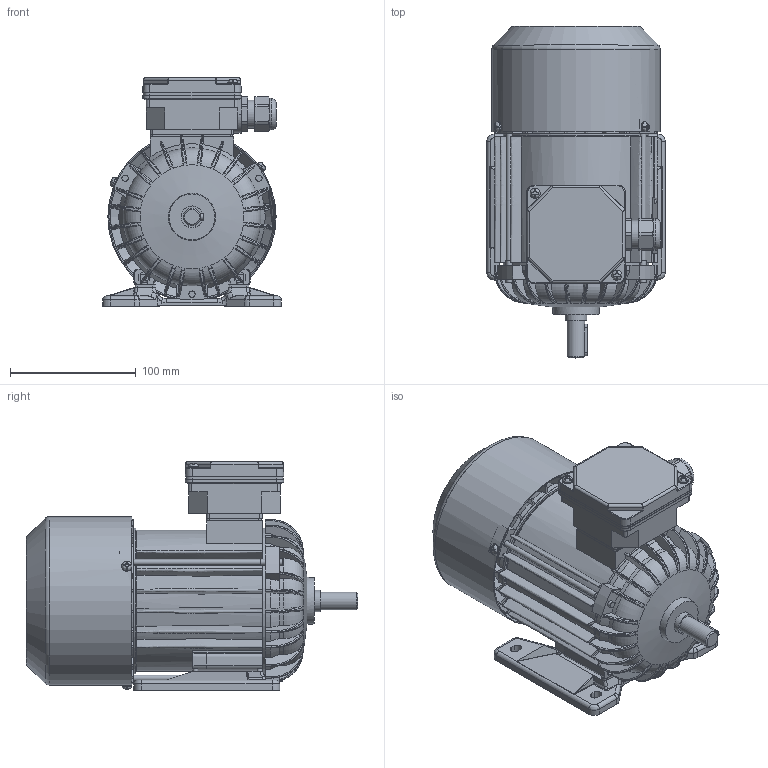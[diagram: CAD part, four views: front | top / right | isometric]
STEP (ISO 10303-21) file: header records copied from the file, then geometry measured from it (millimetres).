
FILE_DESCRIPTION( ( 'Unknown' ), '1' );
FILE_NAME( 'G:/Poczta Tk-1/STP/w.m.71/Sh71/Sh71-.C.stp', 'Unknown', ( 'K. Szlosek' ), ( 'BESEL S.A.' ), 'PSStep 17.0.49', 'Unknown', ' ' );
FILE_SCHEMA( ( 'AUTOMOTIVE_DESIGN { 1 0 10303 214 1 1 1 1 }' ) );
Length unit declared in the file: millimetre
Products named in the file (30): skrznka zaciskowa trójfazowa ; K4-2820 Uszczelka nr 2 Sh71,80; Dławnica M20x1,5; K2-0859 Podstawa skrzynki 6-cio zaciskowej; K2-0860 Pokrywka skrzynki zaciskowej; Assem1; K3-2975 Osłona przewietrznika Sh71-.B,C; K3-6469 Tarcza łożyskowa P S(E,M)h71-B,C; K4-2320 Uszczelka nr 1 Sh71,80; K2-1933 Tarcza łożyskowa N S(E,M)h71-; Wkręt samogwintujący M4x8; K1-1194 Kadłub z zamkami Sh71-.C; K1-0448 Łapa Sh71-.. ; Wpust A5x5x25; Nitokołek A 2x6; k3-4489 Wał SKh71 x-2C1; Wkręt samogwintujący M4x16; K3-3984 Przewietrznik Sh71; Łożysko 6203; Śruba ściągająca E_M5x130; Tabliczka znamionowa 32x44
Assembly tree (45 placements, depth 3):
  Assem1
    K3-2975 Osłona przewietrznika Sh71-.B,C
    K3-6469 Tarcza łożyskowa P S(E,M)h71-B,C
    K4-2320 Uszczelka nr 1 Sh71,80
    K2-1933 Tarcza łożyskowa N S(E,M)h71-
    Wkręt samogwintujący M4x8  x3
    K1-1194 Kadłub z zamkami Sh71-.C
    K1-0448 Łapa Sh71-.. 
    Wpust A5x5x25
    Nitokołek A 2x6  x2
    k3-4489 Wał SKh71 x-2C1
    Wkręt samogwintujący M4x16  x2
    K3-3984 Przewietrznik Sh71
    Łożysko 6203  x2
    Łożysko 6203  x2
    Łożysko 6203  x2
    Łożysko 6203  x2
    Łożysko 6203  x2
    Łożysko 6203  x2
    Łożysko 6203  x2
    Łożysko 6203  x2
    Łożysko 6203  x2
    Łożysko 6203  x2
    Śruba ściągająca E_M5x130  x3
    Tabliczka znamionowa 32x44
    skrznka zaciskowa trójfazowa 
      K4-2820 Uszczelka nr 2 Sh71,80
      Dławnica M20x1,5
      K2-0859 Podstawa skrzynki 6-cio zaciskowej
      K2-0860 Pokrywka skrzynki zaciskowej
Bounding box: 141.93 x 263.5 x 181.5 mm (x, y, z)
Volume: 678760.2 mm3; surface area: 457597.8 mm2
Topology: 44 solids, 60 shells, 3033 faces, 8160 edges, 5147 vertices
Faces by surface type: plane 1100, cylinder 803, bspline 614, torus 276, cone 192, sphere 48
Full cylindrical faces by diameter (mm): 2 x2, 2.4 x2, 3.7 x7, 3.8 x4, 4 x5, 4.2 x3, 4.5 x1, 4.6 x3, 4.8 x4, 5 x7, 5.5 x3, 5.8 x4, 7 x1, 8 x9, 14 x1, 15.9 x1, 16.1 x1, 16.5 x1, 17 x4, 17.4 x2, 18.376 x1, 18.38 x1, 20 x1, 22 x2, 22.3 x1, 22.5 x1, 23.1 x1, 24 x1, 24.498 x4, 25 x1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
Entity records: 203611 total; most frequent: CARTESIAN_POINT 113729, ORIENTED_EDGE 14812, DIRECTION 12495, EDGE_CURVE 7406, AXIS2_PLACEMENT_3D 4827, VERTEX_POINT 4818, EDGE_LOOP 3257, FACE_OUTER_BOUND 2964
